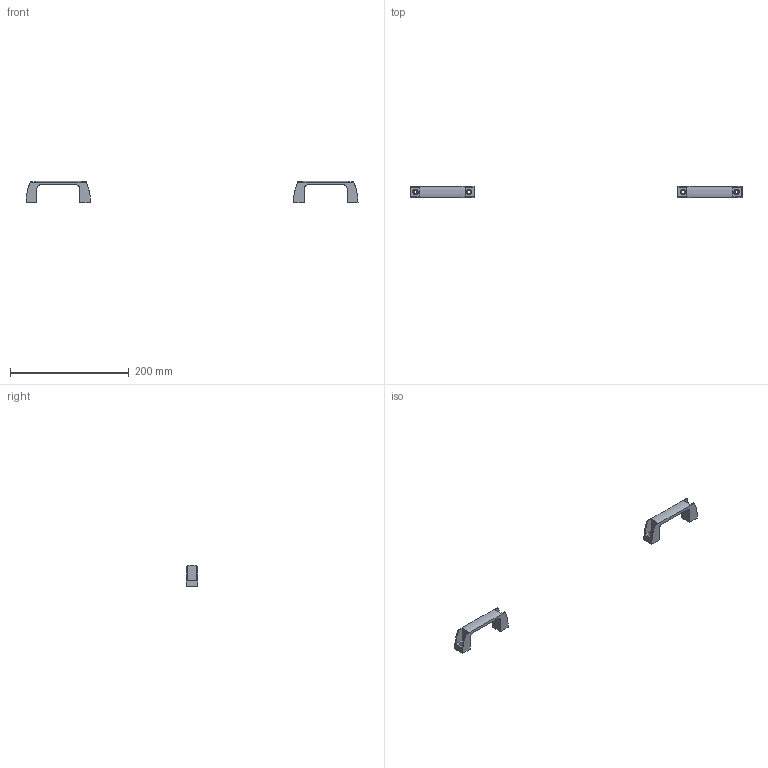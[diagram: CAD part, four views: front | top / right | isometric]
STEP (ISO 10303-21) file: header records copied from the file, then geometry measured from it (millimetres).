
FILE_DESCRIPTION(/* description */ (''),/* implementation_level */ '2;1');
FILE_NAME(/* name */ '13.door-panels#13.3#UPCN19-B-36',/* time_stamp */ '2014-12-01T20:19:49+01:00',/* author */ (''),/* organization */ (''),/* preprocessor_version */ 'ST-DEVELOPER v14',/* originating_system */ '',/* authorisation */ '');
FILE_SCHEMA (('AUTOMOTIVE_DESIGN'));
Length unit declared in the file: millimetre
Products named in the file (1): Document
Bounding box: 558.5 x 19 x 35.91 mm (x, y, z)
Volume: 38485.6 mm3; surface area: 22056.5 mm2
Topology: 2 solids, 2 shells, 68 faces, 180 edges, 120 vertices
Faces by surface type: plane 34, bspline 34
Entity records: 4547 total; most frequent: CARTESIAN_POINT 2284, ORIENTED_EDGE 360, PCURVE 360, DEFINITIONAL_REPRESENTATION 360, B_SPLINE_CURVE_WITH_KNOTS 328, SURFACE_CURVE 180, EDGE_CURVE 180, VERTEX_POINT 120
